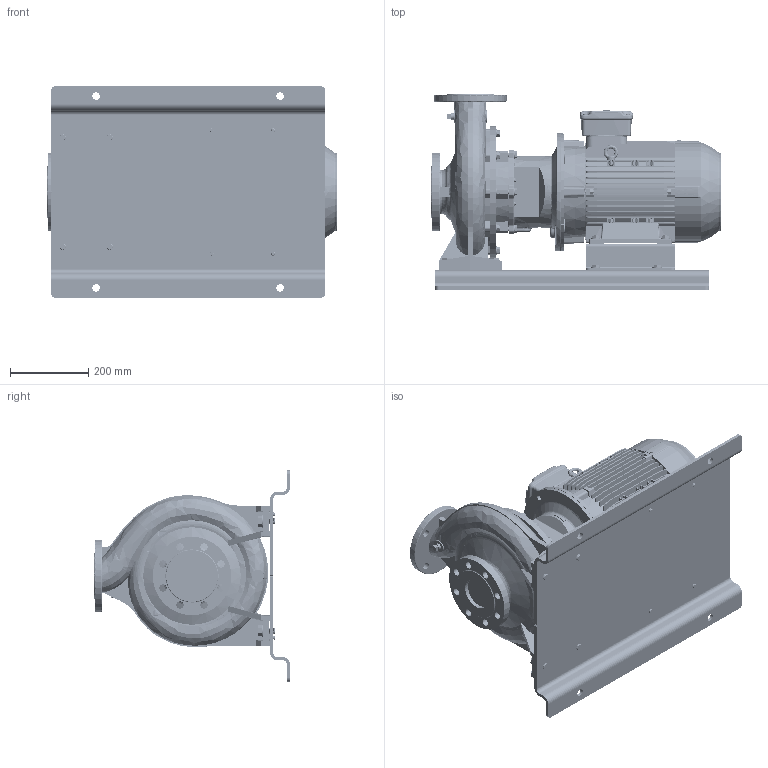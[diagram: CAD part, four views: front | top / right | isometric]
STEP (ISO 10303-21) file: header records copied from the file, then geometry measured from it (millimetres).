
FILE_DESCRIPTION (( 'STEP AP214' ), '1' );
FILE_NAME ('GSD4 65-250_7.5_(132M)_W21_BP.STEP', '2026-05-26T01:13:29', ( '' ), ( '' ), 'SwSTEP 2.0', 'SolidWorks 2024', '' );
FILE_SCHEMA (( 'AUTOMOTIVE_DESIGN' ));
Length unit declared in the file: millimetre
Products named in the file (13): 65-250-132M_ﾃﾞﾌｫﾙﾄ; GSD4 65-250_7.5_(132M)_W21_BP; Parametric bolt and washer_SFT-A353B; Parametric bolt_SFT-A253B; Parametric bolt_SFT-A249B; N6S6 GSDA-663 F1-1832933-00; 132M ALIE3_W21T_B35; Parametric Flat Washer_M10; Parametric bolt and washer_SFT-A253B; Parametric Flat Washer_M16; Parametric bolt and washer_SFT-A249B; 140_178 x 68 BP - 271472191; Parametric bolt_SFT-A353B
Assembly tree (22 placements, depth 3):
  GSD4 65-250_7.5_(132M)_W21_BP
    65-250-132M_ﾃﾞﾌｫﾙﾄ
    N6S6 GSDA-663 F1-1832933-00
    140_178 x 68 BP - 271472191
    Parametric bolt and washer_SFT-A249B  x4
      Parametric bolt_SFT-A249B
      Parametric Flat Washer_M10
    Parametric bolt and washer_SFT-A253B  x4
      Parametric bolt_SFT-A253B
      Parametric Flat Washer_M10
    Parametric bolt and washer_SFT-A353B  x4
      Parametric bolt_SFT-A353B
      Parametric Flat Washer_M16
    132M ALIE3_W21T_B35
Bounding box: 739.8 x 500 x 540 mm (x, y, z)
Volume: 38312702.6 mm3; surface area: 3214072.3 mm2
Topology: 32 solids, 32 shells, 5385 faces, 14044 edges, 9069 vertices
Faces by surface type: plane 3037, cylinder 1410, torus 327, bspline 299, cone 280, sphere 32
Entity records: 190195 total; most frequent: CARTESIAN_POINT 73245, ORIENTED_EDGE 25352, DIRECTION 22586, EDGE_CURVE 12676, VERTEX_POINT 8196, VECTOR 8126, LINE 8126, AXIS2_PLACEMENT_3D 7230
